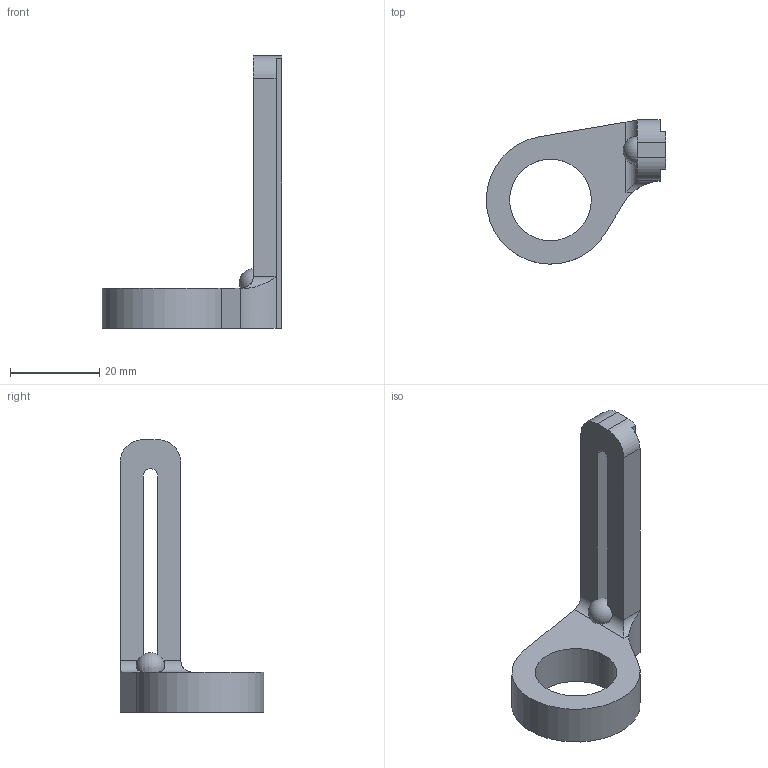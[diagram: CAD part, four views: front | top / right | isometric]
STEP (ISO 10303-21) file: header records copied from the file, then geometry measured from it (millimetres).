
FILE_DESCRIPTION(/* description */ ('Alibre Inc.'),/* implementation_level */ '2;1');
FILE_NAME(/* name */ 'export-3F746188-A64B-465E-99EA-AFB6D6585831',/* time_stamp */ '2020-09-01T21:23:20-07:00',/* author */ (''),/* organization */ (''),/* preprocessor_version */ 'ST-DEVELOPER v17',/* originating_system */ 'Alibre',/* authorisation */ '');
FILE_SCHEMA (('AUTOMOTIVE_DESIGN'));
Length unit declared in the file: millimetre
Bounding box: 40.13 x 32.19 x 60.96 mm (x, y, z)
Volume: 8880.6 mm3; surface area: 5255.8 mm2
Topology: 1 solids, 1 shells, 30 faces, 81 edges, 51 vertices
Faces by surface type: plane 19, cylinder 10, sphere 1
Full cylindrical faces by diameter (mm): 18.288 x1
Entity records: 1007 total; most frequent: CARTESIAN_POINT 233, ORIENTED_EDGE 156, DIRECTION 141, EDGE_CURVE 78, AXIS2_PLACEMENT_3D 55, VERTEX_POINT 51, VECTOR 49, LINE 49
